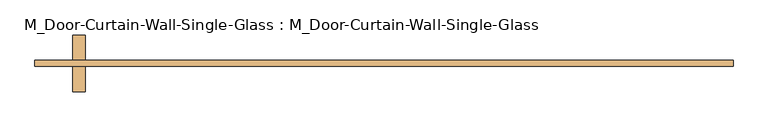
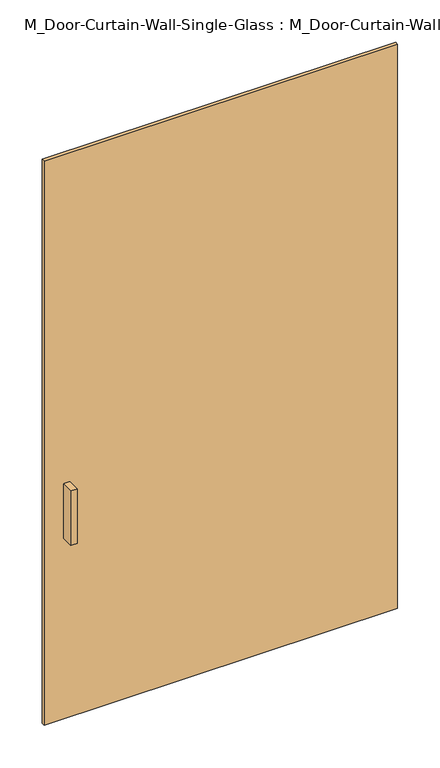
"""IFC4 building model written with IfcOpenShell, lengths in millimetres: door geometry, M_Door-Curtain-Wall-Single-Glass : M_Door-Curtain-Wall-Single-Glass."""

from ifc_helpers import new_model, si_unit, frame, origin, origin_with_axes, place, context, project, spatial, polyline, outline, extrude, source, transform, mapped, element, save


def m_door_curtain_wall_single_glass_m_door_curtain_wall_single_b04b5f62(model_context):
    return source(origin(), model_context, "Body", "SweptSolid", [
        extrude(outline(polyline([(704.0732534, -50.8), (-704.0732534, -50.8), (-704.0732534, -38.1), (704.0732534, -38.1), (704.0732534, -50.8)])), origin_with_axes(), (0.0, 0.0, 1.0), 2375.0),
        extrude(outline(polyline([(-602.4732534, 12.7), (-602.4732534, -38.1), (-627.8732534, -38.1), (-627.8732534, 12.7), (-602.4732534, 12.7)])), frame((0.0, 0.0, 762.0), z_axis=(0.0, 0.0, 1.0), x_axis=(1.0, 0.0, 0.0)), (0.0, 0.0, 1.0), 228.6),
        extrude(outline(polyline([(-627.8732534, -101.6), (-627.8732534, -50.8), (-602.4732534, -50.8), (-602.4732534, -101.6), (-627.8732534, -101.6)])), frame((0.0, 0.0, 762.0), z_axis=(0.0, 0.0, 1.0), x_axis=(1.0, 0.0, 0.0)), (0.0, 0.0, 1.0), 228.6),
    ])


if __name__ == "__main__":
    model = new_model("IFC4")
    model_context = context("Model", 3, world=origin())
    ifc_project = project(units=[si_unit("LENGTHUNIT", "METRE", prefix="MILLI")], contexts=[model_context])
    site = spatial("IfcSite", under=ifc_project)
    building = spatial("IfcBuilding", under=site)
    placement = place(None, origin())
    m_door_curtain_wall_single_glass_m_door_curtain_wall_single_shape = m_door_curtain_wall_single_glass_m_door_curtain_wall_single_b04b5f62(model_context)
    element("IfcDoor", 1, ObjectType="M_Door-Curtain-Wall-Single-Glass : M_Door-Curtain-Wall-Single-Glass", at=placement, inside=building, context=model_context, shape_type="MappedRepresentation", body=[
        mapped(m_door_curtain_wall_single_glass_m_door_curtain_wall_single_shape, transform((0.0, 0.0, 0.0), x_axis=(1.0, 0.0, 0.0), y_axis=(0.0, 1.0, 0.0), z_axis=(0.0, 0.0, 1.0))),
    ])
    save(model, "model.ifc")
